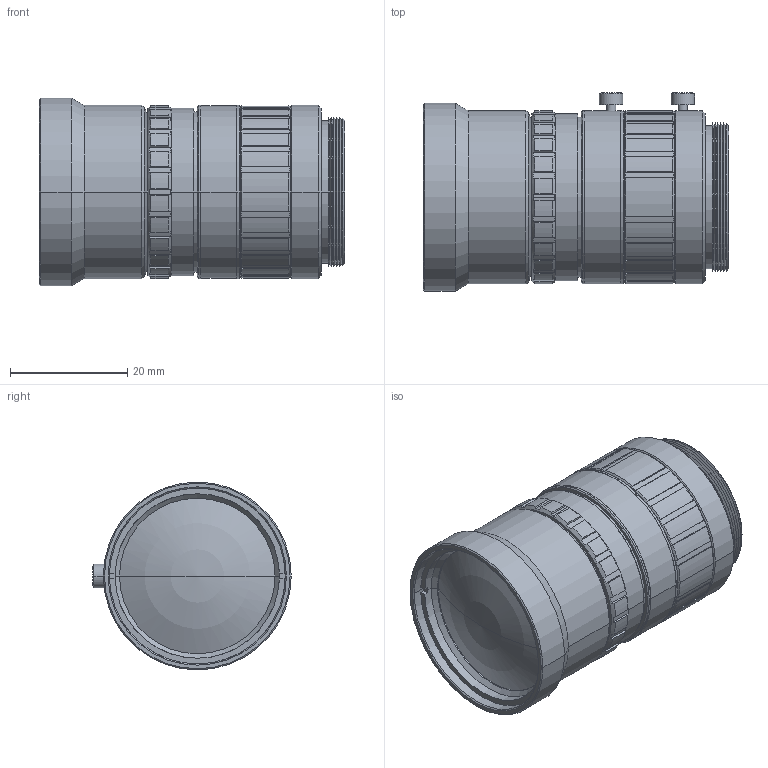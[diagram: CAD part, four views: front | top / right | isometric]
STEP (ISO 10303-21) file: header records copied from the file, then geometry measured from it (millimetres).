
FILE_DESCRIPTION(('CoCreate Modeling STEP Export'),'2;1');
FILE_NAME('HF75HA-1B_3D_Modeling.stp','2016-05-11T18:23:46',(''),(''),'CoCreate Modeling STEP processor for AP214 (Solid Model)','CoCreate Modeling 17.0 01-Apr-2010 (C) Parametric Technology GmbH','');
FILE_SCHEMA(('AUTOMOTIVE_DESIGN { 1 0 10303 214 1 1 1 1 }'));
Length unit declared in the file: millimetre
Products named in the file (1): HF75HA-1B
Bounding box: 51.97 x 33.8 x 32 mm (x, y, z)
Volume: 32177.6 mm3; surface area: 10421.1 mm2
Topology: 1 solids, 1 shells, 360 faces, 940 edges, 598 vertices
Faces by surface type: cylinder 144, plane 136, cone 76, sphere 4
Entity records: 12740 total; most frequent: CARTESIAN_POINT 4377, ORIENTED_EDGE 1872, DIRECTION 1366, EDGE_CURVE 936, VERTEX_POINT 598, AXIS2_PLACEMENT_3D 505, EDGE_LOOP 380, FACE_OUTER_BOUND 360
